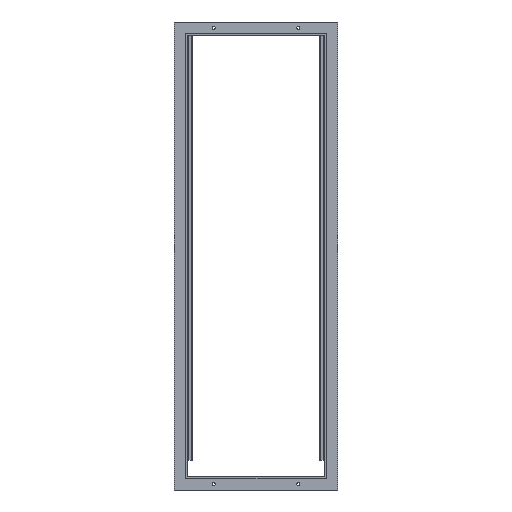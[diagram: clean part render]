
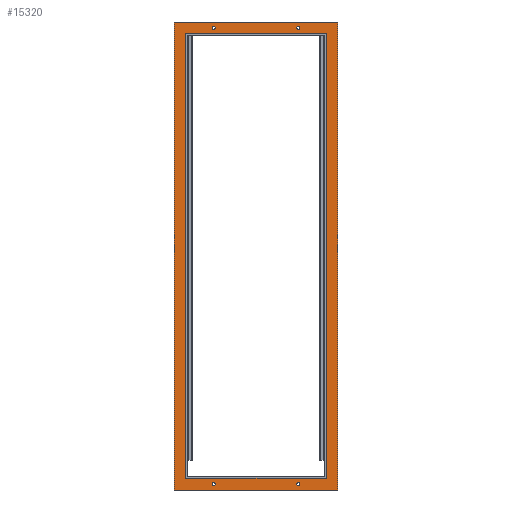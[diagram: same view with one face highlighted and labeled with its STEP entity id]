
A CAD part, front view. The second image highlights one B-rep face of the part: STEP entity #15320.
In plain terms, the highlighted planar face has unit normal (0, -1, 0).
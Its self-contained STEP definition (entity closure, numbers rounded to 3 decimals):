
#320 = LINE ( 'NONE', #30405, #54076 ) ;
#856 = DIRECTION ( 'NONE',  ( 0., 0., 1. ) ) ;
#932 = VERTEX_POINT ( 'NONE', #41708 ) ;
#1449 = PLANE ( 'NONE',  #10628 ) ;
#2443 = CIRCLE ( 'NONE', #4510, 4.5 ) ;
#2448 = ORIENTED_EDGE ( 'NONE', *, *, #40928, .T. ) ;
#2618 = ORIENTED_EDGE ( 'NONE', *, *, #18884, .T. ) ;
#2819 = DIRECTION ( 'NONE',  ( 1., 0., 0. ) ) ;
#2825 = VECTOR ( 'NONE', #856, 1000. ) ;
#3139 = VECTOR ( 'NONE', #25533, 1000. ) ;
#3142 = EDGE_CURVE ( 'NONE', #57116, #15766, #23646, .T. ) ;
#3259 = VECTOR ( 'NONE', #59755, 1000. ) ;
#3630 = VERTEX_POINT ( 'NONE', #60122 ) ;
#3975 = AXIS2_PLACEMENT_3D ( 'NONE', #38770, #7639, #44022 ) ;
#4192 = CIRCLE ( 'NONE', #6240, 4.5 ) ;
#4316 = AXIS2_PLACEMENT_3D ( 'NONE', #57505, #26354, #62757 ) ;
#4510 = AXIS2_PLACEMENT_3D ( 'NONE', #54923, #23812, #60200 ) ;
#5356 = CIRCLE ( 'NONE', #61311, 4.5 ) ;
#5876 = CARTESIAN_POINT ( 'NONE',  ( 335., -5., 22. ) ) ;
#6240 = AXIS2_PLACEMENT_3D ( 'NONE', #18043, #54393, #23284 ) ;
#6549 = EDGE_LOOP ( 'NONE', ( #2448, #25854 ) ) ;
#7196 = FACE_BOUND ( 'NONE', #23394, .T. ) ;
#7629 = LINE ( 'NONE', #8225, #32097 ) ;
#7639 = DIRECTION ( 'NONE',  ( 0., 1., 0. ) ) ;
#7909 = CARTESIAN_POINT ( 'NONE',  ( 420., -5., -1340. ) ) ;
#8009 = VERTEX_POINT ( 'NONE', #34887 ) ;
#8132 = DIRECTION ( 'NONE',  ( 0., 0., 1. ) ) ;
#8225 = CARTESIAN_POINT ( 'NONE',  ( 455., -5., -1375. ) ) ;
#8574 = ORIENTED_EDGE ( 'NONE', *, *, #22394, .F. ) ;
#8852 = ORIENTED_EDGE ( 'NONE', *, *, #59776, .T. ) ;
#9281 = VERTEX_POINT ( 'NONE', #41025 ) ;
#9346 = CARTESIAN_POINT ( 'NONE',  ( -40., -5., 40. ) ) ;
#9686 = CARTESIAN_POINT ( 'NONE',  ( -40., -5., -1375. ) ) ;
#9696 = EDGE_CURVE ( 'NONE', #932, #38948, #4192, .T. ) ;
#10199 = EDGE_CURVE ( 'NONE', #51221, #15766, #56547, .T. ) ;
#10628 = AXIS2_PLACEMENT_3D ( 'NONE', #48529, #17443, #53765 ) ;
#11144 = DIRECTION ( 'NONE',  ( 1., 0., 0. ) ) ;
#12755 = CIRCLE ( 'NONE', #4316, 4.5 ) ;
#12799 = CARTESIAN_POINT ( 'NONE',  ( 455., -5., -1375. ) ) ;
#12980 = CIRCLE ( 'NONE', #37747, 4.5 ) ;
#13443 = AXIS2_PLACEMENT_3D ( 'NONE', #65196, #33993, #2819 ) ;
#14797 = CARTESIAN_POINT ( 'NONE',  ( 80., -5., -1361.5 ) ) ;
#14993 = CARTESIAN_POINT ( 'NONE',  ( 335., -5., -1352.5 ) ) ;
#15320 = ADVANCED_FACE ( 'NONE', ( #48694, #21068, #7196, #60954, #47079, #33259 ), #1449, .T. ) ;
#15766 = VERTEX_POINT ( 'NONE', #9346 ) ;
#16440 = VECTOR ( 'NONE', #8132, 1000. ) ;
#16644 = ORIENTED_EDGE ( 'NONE', *, *, #9696, .T. ) ;
#17001 = LINE ( 'NONE', #46179, #3139 ) ;
#17443 = DIRECTION ( 'NONE',  ( 0., -1., 0. ) ) ;
#18043 = CARTESIAN_POINT ( 'NONE',  ( 335., -5., -1357. ) ) ;
#18884 = EDGE_CURVE ( 'NONE', #38948, #932, #49734, .T. ) ;
#19593 = EDGE_CURVE ( 'NONE', #52561, #57116, #7629, .T. ) ;
#19663 = CARTESIAN_POINT ( 'NONE',  ( 335., -5., 26.5 ) ) ;
#20240 = ORIENTED_EDGE ( 'NONE', *, *, #19593, .T. ) ;
#20498 = EDGE_LOOP ( 'NONE', ( #63841, #37788 ) ) ;
#21068 = FACE_BOUND ( 'NONE', #48779, .T. ) ;
#21101 = EDGE_CURVE ( 'NONE', #51034, #8009, #12980, .T. ) ;
#22394 = EDGE_CURVE ( 'NONE', #44661, #9281, #320, .T. ) ;
#22969 = VERTEX_POINT ( 'NONE', #55784 ) ;
#23003 = VERTEX_POINT ( 'NONE', #19663 ) ;
#23272 = VERTEX_POINT ( 'NONE', #52768 ) ;
#23284 = DIRECTION ( 'NONE',  ( 1., 0., 0. ) ) ;
#23394 = EDGE_LOOP ( 'NONE', ( #51151, #26917 ) ) ;
#23646 = LINE ( 'NONE', #37402, #3259 ) ;
#23812 = DIRECTION ( 'NONE',  ( 0., 1., 0. ) ) ;
#23866 = LINE ( 'NONE', #25910, #62108 ) ;
#24631 = VERTEX_POINT ( 'NONE', #59913 ) ;
#24744 = ORIENTED_EDGE ( 'NONE', *, *, #3142, .T. ) ;
#25184 = DIRECTION ( 'NONE',  ( -1., 0., 0. ) ) ;
#25533 = DIRECTION ( 'NONE',  ( 1., 0., 0. ) ) ;
#25854 = ORIENTED_EDGE ( 'NONE', *, *, #56952, .T. ) ;
#25910 = CARTESIAN_POINT ( 'NONE',  ( -5., -5., -1488.137 ) ) ;
#26354 = DIRECTION ( 'NONE',  ( 0., 1., 0. ) ) ;
#26917 = ORIENTED_EDGE ( 'NONE', *, *, #21101, .T. ) ;
#28280 = EDGE_CURVE ( 'NONE', #23272, #62761, #51086, .T. ) ;
#28310 = CARTESIAN_POINT ( 'NONE',  ( 80., -5., -1357. ) ) ;
#30405 = CARTESIAN_POINT ( 'NONE',  ( 420., -5., 5. ) ) ;
#31167 = ORIENTED_EDGE ( 'NONE', *, *, #10199, .F. ) ;
#31218 = CARTESIAN_POINT ( 'NONE',  ( 335., -5., 22. ) ) ;
#32097 = VECTOR ( 'NONE', #49620, 1000. ) ;
#33259 = FACE_OUTER_BOUND ( 'NONE', #39875, .T. ) ;
#33333 = EDGE_CURVE ( 'NONE', #24631, #44661, #45693, .T. ) ;
#33519 = DIRECTION ( 'NONE',  ( 1., 0., 0. ) ) ;
#33993 = DIRECTION ( 'NONE',  ( 0., 1., 0. ) ) ;
#34887 = CARTESIAN_POINT ( 'NONE',  ( 80., -5., -1352.5 ) ) ;
#36374 = DIRECTION ( 'NONE',  ( 1., 0., 0. ) ) ;
#36718 = ORIENTED_EDGE ( 'NONE', *, *, #67648, .T. ) ;
#36888 = CARTESIAN_POINT ( 'NONE',  ( 80., -5., 17.5 ) ) ;
#37252 = CARTESIAN_POINT ( 'NONE',  ( -40., -5., -1488.137 ) ) ;
#37402 = CARTESIAN_POINT ( 'NONE',  ( 455., -5., 40. ) ) ;
#37668 = ORIENTED_EDGE ( 'NONE', *, *, #33333, .F. ) ;
#37747 = AXIS2_PLACEMENT_3D ( 'NONE', #28310, #64734, #33519 ) ;
#37788 = ORIENTED_EDGE ( 'NONE', *, *, #39349, .T. ) ;
#38112 = CARTESIAN_POINT ( 'NONE',  ( 455., -5., 40. ) ) ;
#38152 = AXIS2_PLACEMENT_3D ( 'NONE', #5876, #42214, #11144 ) ;
#38388 = LINE ( 'NONE', #9686, #50590 ) ;
#38770 = CARTESIAN_POINT ( 'NONE',  ( 335., -5., -1357. ) ) ;
#38948 = VERTEX_POINT ( 'NONE', #14993 ) ;
#39264 = ORIENTED_EDGE ( 'NONE', *, *, #64947, .F. ) ;
#39349 = EDGE_CURVE ( 'NONE', #62761, #23272, #2443, .T. ) ;
#39875 = EDGE_LOOP ( 'NONE', ( #31167, #36718, #20240, #24744 ) ) ;
#40928 = EDGE_CURVE ( 'NONE', #23003, #3630, #5356, .T. ) ;
#41025 = CARTESIAN_POINT ( 'NONE',  ( -5., -5., 5. ) ) ;
#41708 = CARTESIAN_POINT ( 'NONE',  ( 335., -5., -1361.5 ) ) ;
#41999 = CARTESIAN_POINT ( 'NONE',  ( -40., -5., -1375. ) ) ;
#42214 = DIRECTION ( 'NONE',  ( 0., 1., 0. ) ) ;
#44022 = DIRECTION ( 'NONE',  ( 1., 0., 0. ) ) ;
#44661 = VERTEX_POINT ( 'NONE', #58074 ) ;
#45693 = LINE ( 'NONE', #7909, #16440 ) ;
#46179 = CARTESIAN_POINT ( 'NONE',  ( -5., -5., -1340. ) ) ;
#47079 = FACE_BOUND ( 'NONE', #62950, .T. ) ;
#48529 = CARTESIAN_POINT ( 'NONE',  ( -5., -5., -1488.137 ) ) ;
#48694 = FACE_BOUND ( 'NONE', #6549, .T. ) ;
#48779 = EDGE_LOOP ( 'NONE', ( #2618, #16644 ) ) ;
#49620 = DIRECTION ( 'NONE',  ( 0., 0., 1. ) ) ;
#49734 = CIRCLE ( 'NONE', #3975, 4.5 ) ;
#50590 = VECTOR ( 'NONE', #56556, 1000. ) ;
#51034 = VERTEX_POINT ( 'NONE', #14797 ) ;
#51086 = CIRCLE ( 'NONE', #13443, 4.5 ) ;
#51151 = ORIENTED_EDGE ( 'NONE', *, *, #58270, .T. ) ;
#51221 = VERTEX_POINT ( 'NONE', #41999 ) ;
#52561 = VERTEX_POINT ( 'NONE', #12799 ) ;
#52768 = CARTESIAN_POINT ( 'NONE',  ( 80., -5., 26.5 ) ) ;
#53765 = DIRECTION ( 'NONE',  ( 1., 0., 0. ) ) ;
#54076 = VECTOR ( 'NONE', #25184, 1000. ) ;
#54393 = DIRECTION ( 'NONE',  ( 0., 1., 0. ) ) ;
#54923 = CARTESIAN_POINT ( 'NONE',  ( 80., -5., 22. ) ) ;
#55784 = CARTESIAN_POINT ( 'NONE',  ( -5., -5., -1340. ) ) ;
#56547 = LINE ( 'NONE', #37252, #2825 ) ;
#56556 = DIRECTION ( 'NONE',  ( 1., 0., 0. ) ) ;
#56952 = EDGE_CURVE ( 'NONE', #3630, #23003, #64435, .T. ) ;
#57116 = VERTEX_POINT ( 'NONE', #38112 ) ;
#57505 = CARTESIAN_POINT ( 'NONE',  ( 80., -5., -1357. ) ) ;
#58074 = CARTESIAN_POINT ( 'NONE',  ( 420., -5., 5. ) ) ;
#58270 = EDGE_CURVE ( 'NONE', #8009, #51034, #12755, .T. ) ;
#59755 = DIRECTION ( 'NONE',  ( -1., 0., 0. ) ) ;
#59776 = EDGE_CURVE ( 'NONE', #22969, #9281, #23866, .T. ) ;
#59913 = CARTESIAN_POINT ( 'NONE',  ( 420., -5., -1340. ) ) ;
#60122 = CARTESIAN_POINT ( 'NONE',  ( 335., -5., 17.5 ) ) ;
#60200 = DIRECTION ( 'NONE',  ( 1., 0., 0. ) ) ;
#60954 = FACE_BOUND ( 'NONE', #20498, .T. ) ;
#61311 = AXIS2_PLACEMENT_3D ( 'NONE', #31218, #67605, #36374 ) ;
#62108 = VECTOR ( 'NONE', #67329, 1000. ) ;
#62757 = DIRECTION ( 'NONE',  ( 1., 0., 0. ) ) ;
#62761 = VERTEX_POINT ( 'NONE', #36888 ) ;
#62950 = EDGE_LOOP ( 'NONE', ( #39264, #8852, #8574, #37668 ) ) ;
#63841 = ORIENTED_EDGE ( 'NONE', *, *, #28280, .T. ) ;
#64435 = CIRCLE ( 'NONE', #38152, 4.5 ) ;
#64734 = DIRECTION ( 'NONE',  ( 0., 1., 0. ) ) ;
#64947 = EDGE_CURVE ( 'NONE', #22969, #24631, #17001, .T. ) ;
#65196 = CARTESIAN_POINT ( 'NONE',  ( 80., -5., 22. ) ) ;
#67329 = DIRECTION ( 'NONE',  ( 0., 0., 1. ) ) ;
#67605 = DIRECTION ( 'NONE',  ( 0., 1., 0. ) ) ;
#67648 = EDGE_CURVE ( 'NONE', #51221, #52561, #38388, .T. ) ;
